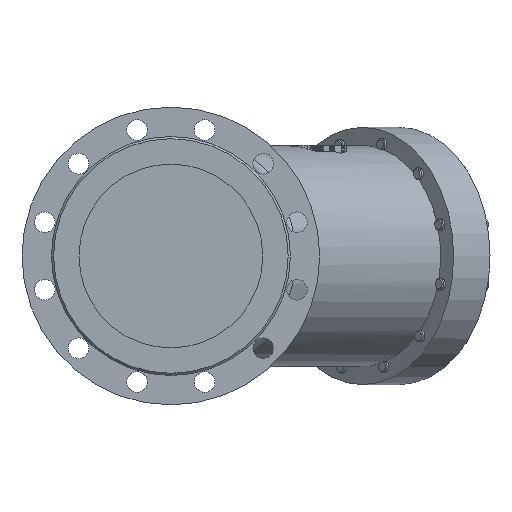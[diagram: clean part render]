
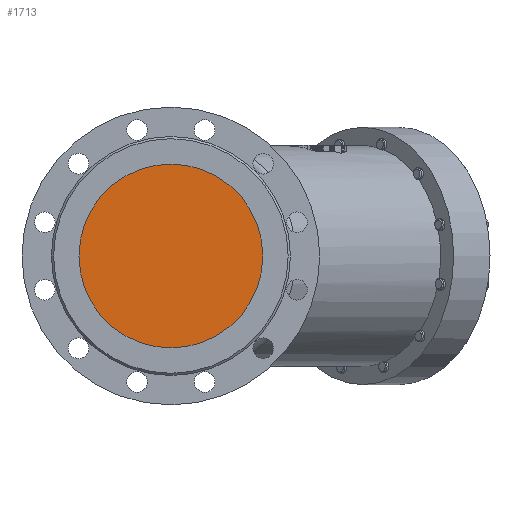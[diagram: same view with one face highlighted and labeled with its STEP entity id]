
A CAD part, left-side view. The second image highlights one B-rep face of the part: STEP entity #1713.
In plain terms, the highlighted planar face has unit normal (-1, 0, 0).
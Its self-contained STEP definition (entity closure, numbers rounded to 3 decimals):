
#1713=ADVANCED_FACE('',(#10843),#10845,.T.);
#10843=FACE_BOUND('',#10844,.T.);
#10844=EDGE_LOOP('',(#18482,#18483));
#10845=PLANE('',#10846);
#10846=AXIS2_PLACEMENT_3D('',#10847,#10848,#10849);
#10847=CARTESIAN_POINT('',(421.705,181.064,178.634));
#10848=DIRECTION('',(-1.,0.,0.));
#10849=DIRECTION('',(0.,0.,-1.));
#18482=ORIENTED_EDGE('',*,*,#23891,.T.);
#18483=ORIENTED_EDGE('',*,*,#23890,.T.);
#23890=EDGE_CURVE('',#27961,#27962,#27963,.T.);
#23891=EDGE_CURVE('',#27962,#27961,#27964,.T.);
#27961=VERTEX_POINT('',#40833);
#27962=VERTEX_POINT('',#40834);
#27963=CIRCLE('',#40835,125.);
#27964=CIRCLE('',#40839,125.);
#40833=CARTESIAN_POINT('',(421.705,134.55,0.));
#40834=CARTESIAN_POINT('',(421.705,384.55,0.));
#40835=AXIS2_PLACEMENT_3D('',#40836,#40837,#40838);
#40836=CARTESIAN_POINT('',(421.705,259.55,0.));
#40837=DIRECTION('',(-1.,0.,0.));
#40838=DIRECTION('',(0.,-1.,0.));
#40839=AXIS2_PLACEMENT_3D('',#40840,#40841,#40842);
#40840=CARTESIAN_POINT('',(421.705,259.55,0.));
#40841=DIRECTION('',(-1.,0.,0.));
#40842=DIRECTION('',(0.,1.,0.));
